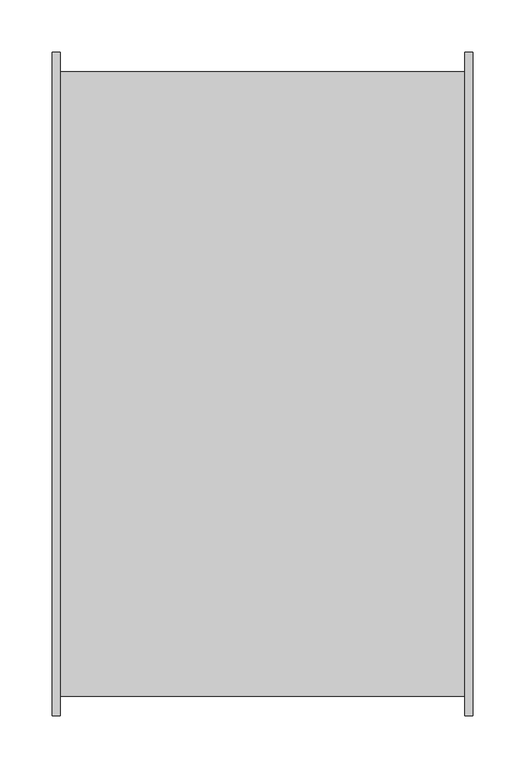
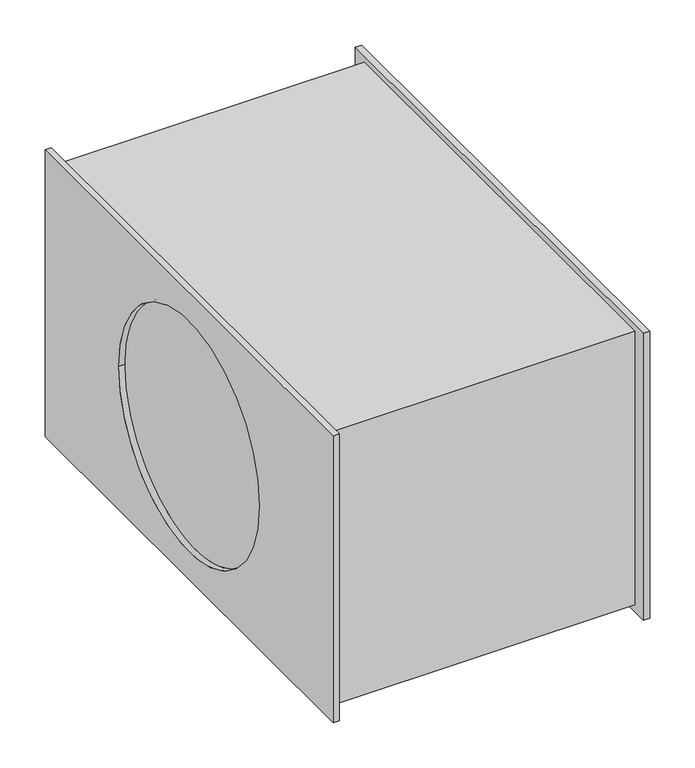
"""IFC4 building model written with IfcOpenShell, lengths in millimetres: unitary equipment geometry, VE-Wentylator-ParaForma-Harmann-JETTEC_REC-Nawiewny : 060/35/4900S."""

from ifc_helpers import new_model, si_unit, frame, origin, place, context, project, spatial, polyline, circle_curve, source, transform, mapped, element, save
from ifc_brep_helpers import plane_surface, revolved_surface, advanced_brep


def unitary_equipment_a1b0716b(model_context):
    return source(origin(), model_context, "Body", "AdvancedBrep", [
        advanced_brep(
        [(194.5, -319.0, -194.0), (194.5, -319.0, 194.0), (194.5, 319.0, 194.0), (194.5, 319.0, -194.0), (194.5, -300.0, 185.0), (194.5, -300.0, -185.0), (194.5, 300.0, -185.0), (194.5, 300.0, 185.0), (202.5, -319.0, -194.0), (202.5, 319.0, -194.0), (202.5, 319.0, 194.0), (202.5, -319.0, 194.0), (202.5, -156.0, 0.0), (202.5, 156.0, 0.0), (194.5, 156.0, 0.0), (194.5, -156.0, 0.0), (-194.5, -156.0, 0.0), (-194.5, 156.0, 0.0), (-194.5, -300.0, -185.0), (-194.5, -300.0, 185.0), (-194.5, 300.0, 185.0), (-194.5, 300.0, -185.0), (-202.5, -319.0, -194.0), (-202.5, -319.0, 194.0), (-202.5, 319.0, 194.0), (-202.5, 319.0, -194.0), (-202.5, 156.0, 0.0), (-202.5, -156.0, 0.0), (-194.5, -319.0, -194.0), (-194.5, 319.0, -194.0), (-194.5, 319.0, 194.0), (-194.5, -319.0, 194.0)],
        [
            (0, 1),
            (1, 2),
            (2, 3),
            (3, 0),
            (4, 5),
            (5, 6),
            (6, 7),
            (7, 4),
            (8, 9),
            (9, 10),
            (10, 11),
            (11, 8),
            (12, 13, circle_curve(frame((202.5, 0.0, 0.0), z_axis=(-1.0, 0.0, 0.0), x_axis=(0.0, 1.0, 0.0)), 156.0)),
            (13, 12, circle_curve(frame((202.5, 0.0, 0.0), z_axis=(-1.0, 0.0, 0.0), x_axis=(0.0, 1.0, 0.0)), 156.0)),
            (0, 8),
            (11, 1),
            (10, 2),
            (9, 3),
            (14, 13),
            (12, 15),
            (15, 14, circle_curve(frame((194.5, 0.0, 0.0), z_axis=(-1.0, 0.0, 0.0), x_axis=(0.0, 1.0, 0.0)), 156.0)),
            (14, 15, circle_curve(frame((194.5, 0.0, 0.0), z_axis=(-1.0, 0.0, 0.0), x_axis=(0.0, 1.0, 0.0)), 156.0)),
            (16, 17, circle_curve(frame((-194.5, 0.0, 0.0), z_axis=(-1.0, 0.0, 0.0), x_axis=(0.0, 1.0, 0.0)), 156.0)),
            (17, 16, circle_curve(frame((-194.5, 0.0, 0.0), z_axis=(-1.0, 0.0, 0.0), x_axis=(0.0, 1.0, 0.0)), 156.0)),
            (18, 5),
            (4, 19),
            (19, 18),
            (7, 20),
            (20, 19),
            (6, 21),
            (21, 20),
            (18, 21),
            (22, 23),
            (23, 24),
            (24, 25),
            (25, 22),
            (26, 27, circle_curve(frame((-202.5, 0.0, 0.0), z_axis=(1.0, 0.0, 0.0), x_axis=(0.0, 1.0, 0.0)), 156.0)),
            (27, 26, circle_curve(frame((-202.5, 0.0, 0.0), z_axis=(1.0, 0.0, 0.0), x_axis=(0.0, 1.0, 0.0)), 156.0)),
            (28, 29),
            (29, 30),
            (30, 31),
            (31, 28),
            (22, 28),
            (31, 23),
            (30, 24),
            (29, 25),
            (26, 17),
            (16, 27),
        ],
        [
            plane_surface(frame((194.5, 0.0, 0.0), z_axis=(-1.0, 0.0, 0.0), x_axis=(0.0, 0.0, 1.0))),
            plane_surface(frame((202.5, 0.0, 0.0), z_axis=(1.0, 0.0, 0.0), x_axis=(0.0, 0.0, 1.0))),
            plane_surface(frame((194.5, -319.0, -194.0), z_axis=(0.0, -1.0, 0.0), x_axis=(1.0, 0.0, 0.0))),
            plane_surface(frame((194.5, -319.0, 194.0), z_axis=(0.0, 0.0, 1.0), x_axis=(1.0, 0.0, 0.0))),
            plane_surface(frame((194.5, 319.0, 194.0), z_axis=(0.0, 1.0, 0.0), x_axis=(1.0, 0.0, 0.0))),
            plane_surface(frame((194.5, 319.0, -194.0), z_axis=(0.0, 0.0, -1.0), x_axis=(1.0, 0.0, 0.0))),
            revolved_surface(polyline([(194.5, 156.0, 0.0), (202.5, 156.0, 0.0)]), (194.5, 0.0, 0.0), (-1.0, 0.0, 0.0)),
            plane_surface(frame((-194.5, 0.0, 0.0), z_axis=(-1.0, 0.0, 0.0), x_axis=(0.0, 0.0, 1.0))),
            plane_surface(frame((194.5, 0.0, 0.0), z_axis=(1.0, 0.0, 0.0), x_axis=(0.0, 0.0, 1.0))),
            plane_surface(frame((-194.5, -300.0, -185.0), z_axis=(0.0, -1.0, 0.0), x_axis=(1.0, 0.0, 0.0))),
            plane_surface(frame((-194.5, -300.0, 185.0), z_axis=(0.0, 0.0, 1.0), x_axis=(1.0, 0.0, 0.0))),
            plane_surface(frame((-194.5, 300.0, 185.0), z_axis=(0.0, 1.0, 0.0), x_axis=(1.0, 0.0, 0.0))),
            plane_surface(frame((-194.5, 300.0, -185.0), z_axis=(0.0, 0.0, -1.0), x_axis=(1.0, 0.0, 0.0))),
            plane_surface(frame((-202.5, 0.0, 0.0), z_axis=(-1.0, 0.0, 0.0), x_axis=(0.0, 0.0, 1.0))),
            plane_surface(frame((-194.5, 0.0, 0.0), z_axis=(1.0, 0.0, 0.0), x_axis=(0.0, 0.0, 1.0))),
            plane_surface(frame((-202.5, -319.0, -194.0), z_axis=(0.0, -1.0, 0.0), x_axis=(1.0, 0.0, 0.0))),
            plane_surface(frame((-202.5, -319.0, 194.0), z_axis=(0.0, 0.0, 1.0), x_axis=(1.0, 0.0, 0.0))),
            plane_surface(frame((-202.5, 319.0, 194.0), z_axis=(0.0, 1.0, 0.0), x_axis=(1.0, 0.0, 0.0))),
            plane_surface(frame((-202.5, 319.0, -194.0), z_axis=(0.0, 0.0, -1.0), x_axis=(1.0, 0.0, 0.0))),
            revolved_surface(polyline([(-202.5, 156.0, 0.0), (-194.5, 156.0, 0.0)]), (-202.5, 0.0, 0.0), (-1.0, 0.0, 0.0)),
        ],
        [
            (0, [[1, 2, 3, 4], [5, 6, 7, 8]]),
            (1, [[9, 10, 11, 12], [13, 14]]),
            (2, [[-1, 15, -12, 16]]),
            (3, [[-2, -16, -11, 17]]),
            (4, [[-3, -17, -10, 18]]),
            (5, [[-4, -18, -9, -15]]),
            (6, [[19, -13, 20, 21]]),
            (6, [[-19, 22, -20, -14]]),
            (7, [[23, 24]]),
            (8, [[-21, -22]]),
            (9, [[25, -5, 26, 27]]),
            (10, [[-26, -8, 28, 29]]),
            (11, [[-28, -7, 30, 31]]),
            (12, [[-25, 32, -30, -6]]),
            (13, [[33, 34, 35, 36], [37, 38]]),
            (14, [[39, 40, 41, 42], [-27, -29, -31, -32]]),
            (15, [[-33, 43, -42, 44]]),
            (16, [[-34, -44, -41, 45]]),
            (17, [[-35, -45, -40, 46]]),
            (18, [[-36, -46, -39, -43]]),
            (19, [[47, -23, 48, -37]]),
            (19, [[-47, -38, -48, -24]]),
        ],
    ),
    ])


if __name__ == "__main__":
    model = new_model("IFC4")
    model_context = context("Model", 3, world=origin())
    ifc_project = project(units=[si_unit("LENGTHUNIT", "METRE", prefix="MILLI")], contexts=[model_context])
    site = spatial("IfcSite", under=ifc_project)
    building = spatial("IfcBuilding", under=site)
    placement = place(None, origin())
    unitary_equipment_shape = unitary_equipment_a1b0716b(model_context)
    element("IfcUnitaryEquipment", 1, ObjectType="VE-Wentylator-ParaForma-Harmann-JETTEC_REC-Nawiewny : 060/35/4900S", at=placement, inside=building, context=model_context, shape_type="MappedRepresentation", body=[
        mapped(unitary_equipment_shape, transform((0.0, 0.0, 0.0), x_axis=(1.0, 0.0, 0.0), y_axis=(0.0, 1.0, 0.0), z_axis=(0.0, 0.0, 1.0))),
    ])
    save(model, "model.ifc")
